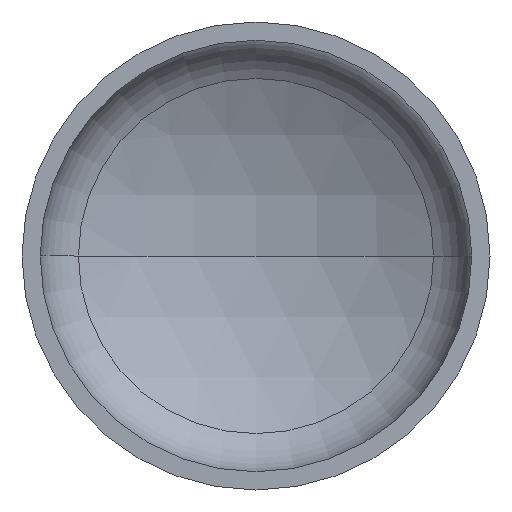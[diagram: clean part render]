
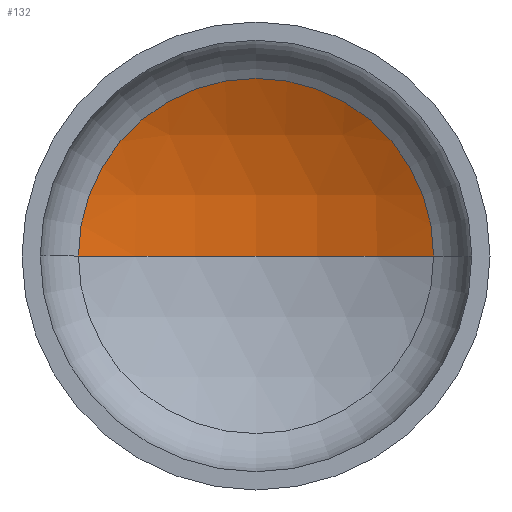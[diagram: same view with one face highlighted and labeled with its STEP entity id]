
A CAD part, front view. The second image highlights one B-rep face of the part: STEP entity #132.
In plain terms, the highlighted spherical face has radius 800 mm.
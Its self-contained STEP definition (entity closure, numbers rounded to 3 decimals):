
#1 = AXIS2_PLACEMENT_3D ( 'NONE', #212, #210, #370 ) ;
#7 = AXIS2_PLACEMENT_3D ( 'NONE', #177, #188, #331 ) ;
#15 = VERTEX_POINT ( 'NONE', #193 ) ;
#21 = AXIS2_PLACEMENT_3D ( 'NONE', #408, #266, #184 ) ;
#29 = AXIS2_PLACEMENT_3D ( 'NONE', #178, #162, #143 ) ;
#39 = CIRCLE ( 'NONE', #7, 800. ) ;
#61 = EDGE_CURVE ( 'NONE', #167, #96, #340, .T. ) ;
#68 = EDGE_LOOP ( 'NONE', ( #217, #201, #146 ) ) ;
#81 = SPHERICAL_SURFACE ( 'NONE', #21, 800. ) ;
#96 = VERTEX_POINT ( 'NONE', #411 ) ;
#132 = ADVANCED_FACE ( 'NONE', ( #186 ), #81, .F. ) ;
#143 = DIRECTION ( 'NONE',  ( 1., 0., 0. ) ) ;
#146 = ORIENTED_EDGE ( 'NONE', *, *, #61, .T. ) ;
#162 = DIRECTION ( 'NONE',  ( 0., -1., 0. ) ) ;
#167 = VERTEX_POINT ( 'NONE', #264 ) ;
#177 = CARTESIAN_POINT ( 'NONE',  ( 0., -447.793, 0. ) ) ;
#178 = CARTESIAN_POINT ( 'NONE',  ( 0., 256.446, 0. ) ) ;
#184 = DIRECTION ( 'NONE',  ( -1., 0., 0. ) ) ;
#186 = FACE_OUTER_BOUND ( 'NONE', #68, .T. ) ;
#188 = DIRECTION ( 'NONE',  ( 0., 0., -1. ) ) ;
#193 = CARTESIAN_POINT ( 'NONE',  ( 0., 352.207, 0. ) ) ;
#201 = ORIENTED_EDGE ( 'NONE', *, *, #334, .T. ) ;
#210 = DIRECTION ( 'NONE',  ( 0., 0., 1. ) ) ;
#212 = CARTESIAN_POINT ( 'NONE',  ( 0., -447.793, 0. ) ) ;
#217 = ORIENTED_EDGE ( 'NONE', *, *, #350, .F. ) ;
#264 = CARTESIAN_POINT ( 'NONE',  ( 379.535, 256.446, 0. ) ) ;
#266 = DIRECTION ( 'NONE',  ( 0., 0., -1. ) ) ;
#331 = DIRECTION ( 'NONE',  ( -1., 0., 0. ) ) ;
#334 = EDGE_CURVE ( 'NONE', #15, #167, #39, .T. ) ;
#340 = CIRCLE ( 'NONE', #29, 379.535 ) ;
#350 = EDGE_CURVE ( 'NONE', #15, #96, #358, .T. ) ;
#358 = CIRCLE ( 'NONE', #1, 800. ) ;
#370 = DIRECTION ( 'NONE',  ( 1., 0., 0. ) ) ;
#408 = CARTESIAN_POINT ( 'NONE',  ( 0., -447.793, 0. ) ) ;
#411 = CARTESIAN_POINT ( 'NONE',  ( -379.535, 256.446, 0. ) ) ;
